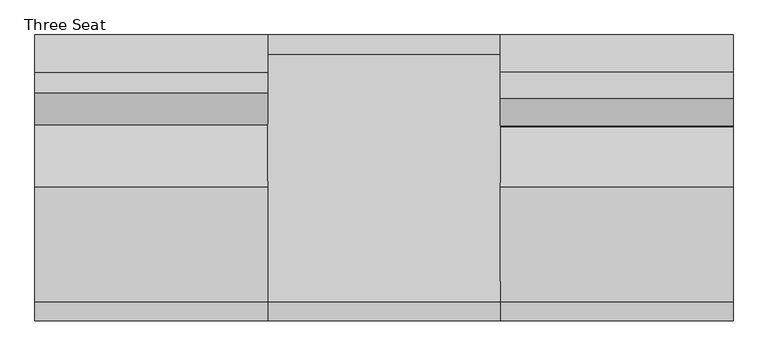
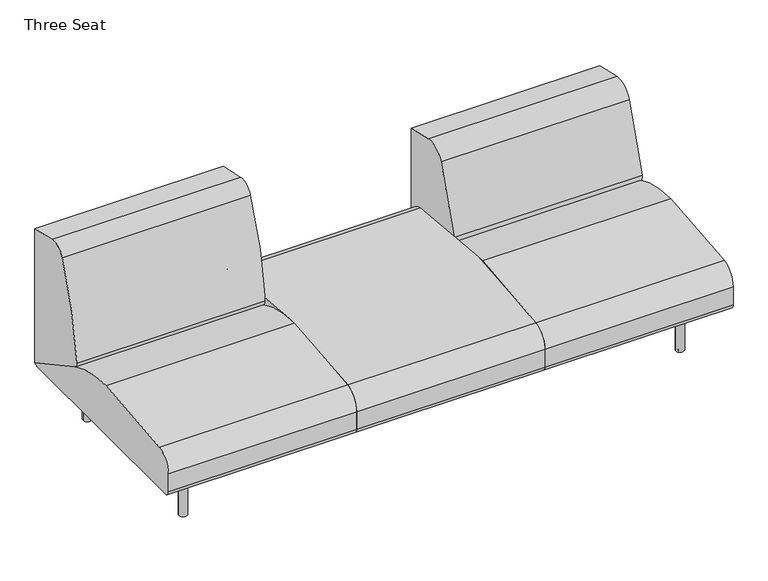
"""IFC4 building model written with IfcOpenShell, lengths in millimetres: furniture geometry, Coalesse_AM_Seating_LoungeChair_Sistema_LegBase_ThreeSeat : Three Seat."""

from ifc_helpers import new_model, si_unit, point, frame, frame_2d, origin, origin_with_axes, place, context, project, spatial, polyline, circle_curve, trimmed, segment, composite_curve, outline, extrude, source, transform, mapped, element, save


def three_seat_312779e2(model_context):
    return source(origin(), model_context, "Body", "SweptSolid", [
        extrude(outline(composite_curve([segment(polyline([(459.4795619, 775.8234697), (459.4795619, 228.1929806)]), True, "CONTINUOUS"), segment(trimmed(circle_curve(frame_2d((191.495971, 228.1929806)), 267.983591), [point((459.4795619, 228.1929806))], [point((458.9860775, 211.937276))], False, "CARTESIAN"), True, "CONTINUOUS"), segment(polyline([(458.9860775, 211.937276), (183.8457951, 360.6719742)]), True, "CONTINUOUS"), segment(trimmed(circle_curve(frame_2d((195.9245701, 383.0161724)), 25.4), [point((183.8457951, 360.6719742))], [point((170.6161698, 385.1713698))], False, "CARTESIAN"), True, "CONTINUOUS"), segment(trimmed(circle_curve(frame_2d((1327.5544182, 286.6495247)), 1161.1256023), [point((170.6161698, 385.1713698))], [point((271.1088001, 768.4537592))], False, "CARTESIAN"), True, "CONTINUOUS"), segment(trimmed(circle_curve(frame_2d((326.5730192, 743.158661)), 60.96), [point((271.1088001, 768.4537592))], [point((339.9143278, 802.6408523))], False, "CARTESIAN"), True, "CONTINUOUS"), segment(polyline([(339.9143278, 802.6408523), (459.4795619, 775.8234697)]), True, "CONTINUOUS")], self_intersect=False)), frame((-374.8034773, 0.0, 0.0), z_axis=(1.0, 0.0, 0.0), x_axis=(0.0, 1.0, 0.0)), (0.0, 0.0, 1.0), 749.3),
        extrude(outline(composite_curve([segment(trimmed(circle_curve(frame_2d((-438.9184381, 226.822)), 22.352), [point((-438.9184381, 204.47))], [point((-461.2704381, 226.822))], False, "CARTESIAN"), True, "CONTINUOUS"), segment(polyline([(-461.2704381, 226.822), (-461.2704381, 301.4421993)]), True, "CONTINUOUS"), segment(trimmed(circle_curve(frame_2d((-385.0704381, 301.4421993)), 76.2), [point((-461.2704381, 301.4421993))], [point((-398.9277015, 376.3716077))], False, "CARTESIAN"), True, "CONTINUOUS"), segment(trimmed(circle_curve(frame_2d((2.2103559, -1792.6740646)), 2205.8265729), [point((-398.9277015, 376.3716077))], [point((-31.1968175, 412.8995185))], False, "CARTESIAN"), True, "CONTINUOUS"), segment(trimmed(circle_curve(frame_2d((-24.5128424, -28.3829182)), 441.333054), [point((-31.1968175, 412.8995185))], [point((184.5757008, 360.2774035))], False, "CARTESIAN"), True, "CONTINUOUS"), segment(polyline([(184.5757008, 360.2774035), (458.9860775, 211.937276)]), True, "CONTINUOUS"), segment(trimmed(circle_curve(frame_2d((442.3266309, 226.7871991)), 22.3171991), [point((458.9860775, 211.937276))], [point((442.3266309, 204.47))], False, "CARTESIAN"), True, "CONTINUOUS"), segment(polyline([(442.3266309, 204.47), (-438.9184381, 204.47)]), True, "CONTINUOUS")], self_intersect=False)), frame((-374.8034773, 0.0, 0.0), z_axis=(1.0, 0.0, 0.0), x_axis=(0.0, 1.0, 0.0)), (0.0, 0.0, 1.0), 749.3),
        extrude(outline(composite_curve([segment(trimmed(circle_curve(frame_2d((-438.9184381, 226.822)), 22.352), [point((-438.9184381, 204.47))], [point((-461.2704381, 226.822))], False, "CARTESIAN"), True, "CONTINUOUS"), segment(polyline([(-461.2704381, 226.822), (-461.2704381, 301.4421993)]), True, "CONTINUOUS"), segment(trimmed(circle_curve(frame_2d((-385.0704381, 301.4421993)), 76.2), [point((-461.2704381, 301.4421993))], [point((-398.9279534, 376.3715612))], False, "CARTESIAN"), True, "CONTINUOUS"), segment(trimmed(circle_curve(frame_2d((-0.3717831, -1778.6727457)), 2191.5891461), [point((-398.9279534, 376.3715612))], [point((397.0993513, 376.5719464))], False, "CARTESIAN"), True, "CONTINUOUS"), segment(trimmed(circle_curve(frame_2d((383.2795619, 301.6356173)), 76.2), [point((397.0993513, 376.5719464))], [point((459.4795619, 301.6356173))], False, "CARTESIAN"), True, "CONTINUOUS"), segment(polyline([(459.4795619, 301.6356173), (459.4795619, 226.7871991)]), True, "CONTINUOUS"), segment(trimmed(circle_curve(frame_2d((437.1623628, 226.7871991)), 22.3171991), [point((459.4795619, 226.7871991))], [point((437.1623628, 204.47))], False, "CARTESIAN"), True, "CONTINUOUS"), segment(polyline([(437.1623628, 204.47), (-438.9184381, 204.47)]), True, "CONTINUOUS")], self_intersect=False)), frame((374.4965227, 0.0, 0.0), z_axis=(1.0, 0.0, 0.0), x_axis=(0.0, 1.0, 0.0)), (0.0, 0.0, 1.0), 749.3),
        extrude(outline(composite_curve([segment(polyline([(459.4795619, 673.6041325), (459.4795619, 228.1929806)]), True, "CONTINUOUS"), segment(trimmed(circle_curve(frame_2d((191.495971, 228.1929806)), 267.983591), [point((459.4795619, 228.1929806))], [point((458.9860775, 211.937276))], False, "CARTESIAN"), True, "CONTINUOUS"), segment(polyline([(458.9860775, 211.937276), (177.4990556, 364.1028799)]), True, "CONTINUOUS"), segment(trimmed(circle_curve(frame_2d((189.5778307, 386.4470781)), 25.4), [point((177.4990556, 364.1028799))], [point((164.9600055, 392.7018911))], False, "CARTESIAN"), True, "CONTINUOUS"), segment(trimmed(circle_curve(frame_2d((1918.112812, -52.7331923)), 1808.8552115), [point((164.9600055, 392.7018911))], [point((254.1018253, 656.5090883))], False, "CARTESIAN"), True, "CONTINUOUS"), segment(trimmed(circle_curve(frame_2d((324.2001043, 626.6314831)), 76.2), [point((254.1018253, 656.5090883))], [point((341.3413746, 700.8784821))], False, "CARTESIAN"), True, "CONTINUOUS"), segment(polyline([(341.3413746, 700.8784821), (459.4795619, 673.6041325)]), True, "CONTINUOUS")], self_intersect=False)), frame((1123.7965227, 0.0, 0.0), z_axis=(1.0, 0.0, 0.0), x_axis=(0.0, 1.0, 0.0)), (0.0, 0.0, 1.0), 749.3),
        extrude(outline(composite_curve([segment(trimmed(circle_curve(frame_2d((-438.9184381, 226.822)), 22.352), [point((-438.9184381, 204.47))], [point((-461.2704381, 226.822))], False, "CARTESIAN"), True, "CONTINUOUS"), segment(polyline([(-461.2704381, 226.822), (-461.2704381, 301.4421993)]), True, "CONTINUOUS"), segment(trimmed(circle_curve(frame_2d((-385.0704381, 301.4421993)), 76.2), [point((-461.2704381, 301.4421993))], [point((-398.9277015, 376.3716077))], False, "CARTESIAN"), True, "CONTINUOUS"), segment(trimmed(circle_curve(frame_2d((2.2103559, -1792.6740646)), 2205.8265729), [point((-398.9277015, 376.3716077))], [point((-31.1968175, 412.8995185))], False, "CARTESIAN"), True, "CONTINUOUS"), segment(trimmed(circle_curve(frame_2d((-24.5128424, -28.3829182)), 441.333054), [point((-31.1968175, 412.8995185))], [point((184.5757008, 360.2774035))], False, "CARTESIAN"), True, "CONTINUOUS"), segment(polyline([(184.5757008, 360.2774035), (458.9860775, 211.937276)]), True, "CONTINUOUS"), segment(trimmed(circle_curve(frame_2d((442.3266309, 226.7871991)), 22.3171991), [point((458.9860775, 211.937276))], [point((442.3266309, 204.47))], False, "CARTESIAN"), True, "CONTINUOUS"), segment(polyline([(442.3266309, 204.47), (-438.9184381, 204.47)]), True, "CONTINUOUS")], self_intersect=False)), frame((1123.7965227, 0.0, 0.0), z_axis=(1.0, 0.0, 0.0), x_axis=(0.0, 1.0, 0.0)), (0.0, 0.0, 1.0), 749.3),
        extrude(outline(composite_curve([segment(trimmed(circle_curve(frame_2d((1738.4765227, 335.9943389)), 6.096), [point((1744.5725227, 335.9943389))], [point((1732.3805227, 335.9943389))], False, "CARTESIAN"), True, "CONTINUOUS"), segment(trimmed(circle_curve(frame_2d((1738.4765227, 335.9943389)), 6.096), [point((1732.3805227, 335.9943389))], [point((1744.5725227, 335.9943389))], False, "CARTESIAN"), True, "CONTINUOUS")], self_intersect=False)), origin_with_axes(), (0.0, 0.0, 1.0), 4.3662291),
        extrude(outline(composite_curve([segment(trimmed(circle_curve(frame_2d((1738.4765227, -327.2630889)), 6.096), [point((1744.5725227, -327.2630889))], [point((1732.3805227, -327.2630889))], False, "CARTESIAN"), True, "CONTINUOUS"), segment(trimmed(circle_curve(frame_2d((1738.4765227, -327.2630889)), 6.096), [point((1732.3805227, -327.2630889))], [point((1744.5725227, -327.2630889))], False, "CARTESIAN"), True, "CONTINUOUS")], self_intersect=False)), origin_with_axes(), (0.0, 0.0, 1.0), 4.3662291),
        extrude(outline(composite_curve([segment(polyline([(157.0399209, 1751.056375), (201.7356243, 1751.056375)]), True, "CONTINUOUS"), segment(trimmed(circle_curve(frame_2d((201.7356243, 1748.008375)), 3.048), [point((201.7356243, 1751.056375))], [point((204.7836243, 1748.008375))], False, "CARTESIAN"), True, "CONTINUOUS"), segment(polyline([(204.7836243, 1748.008375), (204.7836243, 1728.666199)]), True, "CONTINUOUS"), segment(trimmed(circle_curve(frame_2d((201.7356243, 1728.666199)), 3.048), [point((204.7836243, 1728.666199))], [point((201.7356243, 1725.618199))], False, "CARTESIAN"), True, "CONTINUOUS"), segment(polyline([(201.7356243, 1725.618199), (157.1249936, 1725.618199)]), True, "CONTINUOUS"), segment(trimmed(circle_curve(frame_2d((157.1249936, 1728.7512718)), 3.1330728), [point((157.1249936, 1725.618199))], [point((153.9919209, 1728.7512718))], False, "CARTESIAN"), True, "CONTINUOUS"), segment(polyline([(153.9919209, 1728.7512718), (153.9919209, 1748.008375)]), True, "CONTINUOUS"), segment(trimmed(circle_curve(frame_2d((157.0399209, 1748.008375)), 3.048), [point((153.9919209, 1748.008375))], [point((157.0399209, 1751.056375))], False, "CARTESIAN"), True, "CONTINUOUS")], self_intersect=False)), frame((0.0, 222.3519802, 0.0), z_axis=(0.0, 1.0, 0.0), x_axis=(0.0, 0.0, 1.0)), (0.0, 0.0, 1.0), 92.6273161),
        extrude(outline(composite_curve([segment(polyline([(157.0399209, 1751.056375), (201.7356243, 1751.056375)]), True, "CONTINUOUS"), segment(trimmed(circle_curve(frame_2d((201.7356243, 1748.008375)), 3.048), [point((201.7356243, 1751.056375))], [point((204.7836243, 1748.008375))], False, "CARTESIAN"), True, "CONTINUOUS"), segment(polyline([(204.7836243, 1748.008375), (204.7836243, 1728.666199)]), True, "CONTINUOUS"), segment(trimmed(circle_curve(frame_2d((201.7356243, 1728.666199)), 3.048), [point((204.7836243, 1728.666199))], [point((201.7356243, 1725.618199))], False, "CARTESIAN"), True, "CONTINUOUS"), segment(polyline([(201.7356243, 1725.618199), (157.1249936, 1725.618199)]), True, "CONTINUOUS"), segment(trimmed(circle_curve(frame_2d((157.1249936, 1728.7512718)), 3.1330728), [point((157.1249936, 1725.618199))], [point((153.9919209, 1728.7512718))], False, "CARTESIAN"), True, "CONTINUOUS"), segment(polyline([(153.9919209, 1728.7512718), (153.9919209, 1748.008375)]), True, "CONTINUOUS"), segment(trimmed(circle_curve(frame_2d((157.0399209, 1748.008375)), 3.048), [point((153.9919209, 1748.008375))], [point((157.0399209, 1751.056375))], False, "CARTESIAN"), True, "CONTINUOUS")], self_intersect=False)), frame((0.0, -314.9792963, 0.0), z_axis=(0.0, 1.0, 0.0), x_axis=(0.0, 0.0, 1.0)), (0.0, 0.0, 1.0), 92.6273161),
        extrude(outline(composite_curve([segment(trimmed(circle_curve(frame_2d((176.3356606, 1715.8259944)), 3.048), [point((179.3836606, 1715.8259944))], [point((176.3356606, 1712.7779944))], False, "CARTESIAN"), True, "CONTINUOUS"), segment(polyline([(176.3356606, 1712.7779944), (157.0399209, 1712.7779944)]), True, "CONTINUOUS"), segment(trimmed(circle_curve(frame_2d((157.0399209, 1715.8259944)), 3.048), [point((157.0399209, 1712.7779944))], [point((153.9919209, 1715.8259944))], False, "CARTESIAN"), True, "CONTINUOUS"), segment(polyline([(153.9919209, 1715.8259944), (153.9919209, 1760.5135501)]), True, "CONTINUOUS"), segment(trimmed(circle_curve(frame_2d((157.056462, 1760.5135501)), 3.0645412), [point((153.9919209, 1760.5135501))], [point((157.056462, 1763.5780913))], False, "CARTESIAN"), True, "CONTINUOUS"), segment(polyline([(157.056462, 1763.5780913), (176.3356606, 1763.5780913)]), True, "CONTINUOUS"), segment(trimmed(circle_curve(frame_2d((176.3356606, 1760.5300913)), 3.048), [point((176.3356606, 1763.5780913))], [point((179.3836606, 1760.5300913))], False, "CARTESIAN"), True, "CONTINUOUS"), segment(polyline([(179.3836606, 1760.5300913), (179.3836606, 1715.8259944)]), True, "CONTINUOUS")], self_intersect=False)), frame((0.0, -222.3519802, 0.0), z_axis=(0.0, 1.0, 0.0), x_axis=(0.0, 0.0, 1.0)), (0.0, 0.0, 1.0), 444.7039604),
        extrude(outline(composite_curve([segment(trimmed(circle_curve(frame_2d((1738.4765227, 332.3095741)), 16.51), [point((1754.9865227, 332.3095741))], [point((1721.9665227, 332.3095741))], False, "CARTESIAN"), True, "CONTINUOUS"), segment(trimmed(circle_curve(frame_2d((1738.4765227, 332.3095741)), 16.51), [point((1721.9665227, 332.3095741))], [point((1754.9865227, 332.3095741))], False, "CARTESIAN"), True, "CONTINUOUS")], self_intersect=False)), frame((0.0, 0.0, 4.3662291), z_axis=(0.0, 0.0, 1.0), x_axis=(1.0, 0.0, 0.0)), (0.0, 0.0, 1.0), 200.1037709),
        extrude(outline(composite_curve([segment(trimmed(circle_curve(frame_2d((1738.0796477, -327.5470741)), 16.51), [point((1754.5896477, -327.5470741))], [point((1721.5696477, -327.5470741))], False, "CARTESIAN"), True, "CONTINUOUS"), segment(trimmed(circle_curve(frame_2d((1738.0796477, -327.5470741)), 16.51), [point((1721.5696477, -327.5470741))], [point((1754.5896477, -327.5470741))], False, "CARTESIAN"), True, "CONTINUOUS")], self_intersect=False)), frame((0.0, 0.0, 4.3662291), z_axis=(0.0, 0.0, 1.0), x_axis=(1.0, 0.0, 0.0)), (0.0, 0.0, 1.0), 200.1037709),
        extrude(outline(composite_curve([segment(trimmed(circle_curve(frame_2d((-240.1834773, 335.9943389)), 6.096), [point((-246.2794773, 335.9943389))], [point((-234.0874773, 335.9943389))], False, "CARTESIAN"), True, "CONTINUOUS"), segment(trimmed(circle_curve(frame_2d((-240.1834773, 335.9943389)), 6.096), [point((-234.0874773, 335.9943389))], [point((-246.2794773, 335.9943389))], False, "CARTESIAN"), True, "CONTINUOUS")], self_intersect=False)), origin_with_axes(), (0.0, 0.0, 1.0), 4.3662291),
        extrude(outline(composite_curve([segment(trimmed(circle_curve(frame_2d((-240.1834773, -327.2630889)), 6.096), [point((-246.2794773, -327.2630889))], [point((-234.0874773, -327.2630889))], False, "CARTESIAN"), True, "CONTINUOUS"), segment(trimmed(circle_curve(frame_2d((-240.1834773, -327.2630889)), 6.096), [point((-234.0874773, -327.2630889))], [point((-246.2794773, -327.2630889))], False, "CARTESIAN"), True, "CONTINUOUS")], self_intersect=False)), origin_with_axes(), (0.0, 0.0, 1.0), 4.3662291),
        extrude(outline(composite_curve([segment(trimmed(circle_curve(frame_2d((157.0399209, -249.7153296)), 3.048), [point((157.0399209, -252.7633296))], [point((153.9919209, -249.7153296))], False, "CARTESIAN"), True, "CONTINUOUS"), segment(polyline([(153.9919209, -249.7153296), (153.9919209, -230.4582264)]), True, "CONTINUOUS"), segment(trimmed(circle_curve(frame_2d((157.1249936, -230.4582264)), 3.1330728), [point((153.9919209, -230.4582264))], [point((157.1249936, -227.3251537))], False, "CARTESIAN"), True, "CONTINUOUS"), segment(polyline([(157.1249936, -227.3251537), (201.7356243, -227.3251537)]), True, "CONTINUOUS"), segment(trimmed(circle_curve(frame_2d((201.7356243, -230.3731537)), 3.048), [point((201.7356243, -227.3251537))], [point((204.7836243, -230.3731537))], False, "CARTESIAN"), True, "CONTINUOUS"), segment(polyline([(204.7836243, -230.3731537), (204.7836243, -249.7153296)]), True, "CONTINUOUS"), segment(trimmed(circle_curve(frame_2d((201.7356243, -249.7153296)), 3.048), [point((204.7836243, -249.7153296))], [point((201.7356243, -252.7633296))], False, "CARTESIAN"), True, "CONTINUOUS"), segment(polyline([(201.7356243, -252.7633296), (157.0399209, -252.7633296)]), True, "CONTINUOUS")], self_intersect=False)), frame((0.0, 222.3519802, 0.0), z_axis=(0.0, 1.0, 0.0), x_axis=(0.0, 0.0, 1.0)), (0.0, 0.0, 1.0), 92.6273161),
        extrude(outline(composite_curve([segment(trimmed(circle_curve(frame_2d((157.0399209, -249.7153296)), 3.048), [point((157.0399209, -252.7633296))], [point((153.9919209, -249.7153296))], False, "CARTESIAN"), True, "CONTINUOUS"), segment(polyline([(153.9919209, -249.7153296), (153.9919209, -230.4582264)]), True, "CONTINUOUS"), segment(trimmed(circle_curve(frame_2d((157.1249936, -230.4582264)), 3.1330728), [point((153.9919209, -230.4582264))], [point((157.1249936, -227.3251537))], False, "CARTESIAN"), True, "CONTINUOUS"), segment(polyline([(157.1249936, -227.3251537), (201.7356243, -227.3251537)]), True, "CONTINUOUS"), segment(trimmed(circle_curve(frame_2d((201.7356243, -230.3731537)), 3.048), [point((201.7356243, -227.3251537))], [point((204.7836243, -230.3731537))], False, "CARTESIAN"), True, "CONTINUOUS"), segment(polyline([(204.7836243, -230.3731537), (204.7836243, -249.7153296)]), True, "CONTINUOUS"), segment(trimmed(circle_curve(frame_2d((201.7356243, -249.7153296)), 3.048), [point((204.7836243, -249.7153296))], [point((201.7356243, -252.7633296))], False, "CARTESIAN"), True, "CONTINUOUS"), segment(polyline([(201.7356243, -252.7633296), (157.0399209, -252.7633296)]), True, "CONTINUOUS")], self_intersect=False)), frame((0.0, -314.9792963, 0.0), z_axis=(0.0, 1.0, 0.0), x_axis=(0.0, 0.0, 1.0)), (0.0, 0.0, 1.0), 92.6273161),
        extrude(outline(composite_curve([segment(polyline([(179.3836606, -217.532949), (179.3836606, -262.2370459)]), True, "CONTINUOUS"), segment(trimmed(circle_curve(frame_2d((176.3356606, -262.2370459)), 3.048), [point((179.3836606, -262.2370459))], [point((176.3356606, -265.2850459))], False, "CARTESIAN"), True, "CONTINUOUS"), segment(polyline([(176.3356606, -265.2850459), (157.056462, -265.2850459)]), True, "CONTINUOUS"), segment(trimmed(circle_curve(frame_2d((157.056462, -262.2205047)), 3.0645412), [point((157.056462, -265.2850459))], [point((153.9919209, -262.2205047))], False, "CARTESIAN"), True, "CONTINUOUS"), segment(polyline([(153.9919209, -262.2205047), (153.9919209, -217.532949)]), True, "CONTINUOUS"), segment(trimmed(circle_curve(frame_2d((157.0399209, -217.532949)), 3.048), [point((153.9919209, -217.532949))], [point((157.0399209, -214.484949))], False, "CARTESIAN"), True, "CONTINUOUS"), segment(polyline([(157.0399209, -214.484949), (176.3356606, -214.484949)]), True, "CONTINUOUS"), segment(trimmed(circle_curve(frame_2d((176.3356606, -217.532949)), 3.048), [point((176.3356606, -214.484949))], [point((179.3836606, -217.532949))], False, "CARTESIAN"), True, "CONTINUOUS")], self_intersect=False)), frame((0.0, -222.3519802, 0.0), z_axis=(0.0, 1.0, 0.0), x_axis=(0.0, 0.0, 1.0)), (0.0, 0.0, 1.0), 444.7039604),
        extrude(outline(composite_curve([segment(trimmed(circle_curve(frame_2d((-240.1834773, 332.3095741)), 16.51), [point((-256.6934773, 332.3095741))], [point((-223.6734773, 332.3095741))], False, "CARTESIAN"), True, "CONTINUOUS"), segment(trimmed(circle_curve(frame_2d((-240.1834773, 332.3095741)), 16.51), [point((-223.6734773, 332.3095741))], [point((-256.6934773, 332.3095741))], False, "CARTESIAN"), True, "CONTINUOUS")], self_intersect=False)), frame((0.0, 0.0, 4.3662291), z_axis=(0.0, 0.0, 1.0), x_axis=(1.0, 0.0, 0.0)), (0.0, 0.0, 1.0), 200.1037709),
        extrude(outline(composite_curve([segment(trimmed(circle_curve(frame_2d((-239.7866023, -327.5470741)), 16.51), [point((-256.2966023, -327.5470741))], [point((-223.2766023, -327.5470741))], False, "CARTESIAN"), True, "CONTINUOUS"), segment(trimmed(circle_curve(frame_2d((-239.7866023, -327.5470741)), 16.51), [point((-223.2766023, -327.5470741))], [point((-256.2966023, -327.5470741))], False, "CARTESIAN"), True, "CONTINUOUS")], self_intersect=False)), frame((0.0, 0.0, 4.3662291), z_axis=(0.0, 0.0, 1.0), x_axis=(1.0, 0.0, 0.0)), (0.0, 0.0, 1.0), 200.1037709),
    ])


if __name__ == "__main__":
    model = new_model("IFC4")
    model_context = context("Model", 3, world=origin())
    ifc_project = project(units=[si_unit("LENGTHUNIT", "METRE", prefix="MILLI")], contexts=[model_context])
    site = spatial("IfcSite", under=ifc_project)
    building = spatial("IfcBuilding", under=site)
    placement = place(None, origin())
    three_seat_shape = three_seat_312779e2(model_context)
    element("IfcFurniture", 1, ObjectType="Coalesse_AM_Seating_LoungeChair_Sistema_LegBase_ThreeSeat : Three Seat", at=placement, inside=building, context=model_context, shape_type="MappedRepresentation", body=[
        mapped(three_seat_shape, transform((0.0, 0.0, 0.0), x_axis=(1.0, 0.0, 0.0), y_axis=(0.0, 1.0, 0.0), z_axis=(0.0, 0.0, 1.0))),
    ])
    save(model, "model.ifc")
